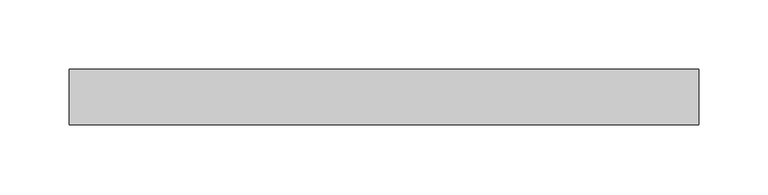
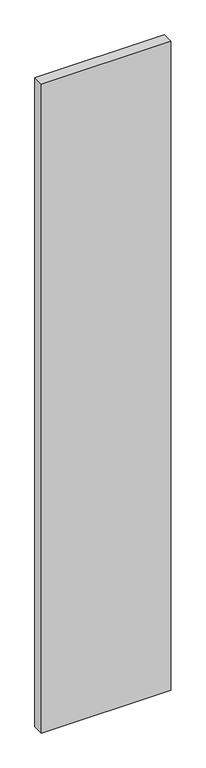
"""IFC4 building model written with IfcOpenShell, lengths in millimetres: plate geometry, Vitré."""

import ifcopenshell
import ifcopenshell.guid

model = None  # the IFC model being written
_history = None  # IfcOwnerHistory: only IFC2X3 demands one
_inside = {}  # id of a spatial element -> (the spatial element, [elements in it])
_under = {}  # id of a project, library or spatial element -> (it, [spatial elements below it])
_declared = {}  # id of a project -> (the project, [libraries it declares])
_typed = {}  # id of a type object -> (the type object, [elements of that type])
_made_of = {}  # id of a material, layer set ... -> (it, [elements and type objects made of it])


def new_model(schema):
    """Start an empty IFC model of exactly this schema.

    Asked for "IFC4X3", IfcOpenShell would pick the latest addendum, in which some entities
    have other attributes; the version numbers below select the first issue.
    IFC2X3 requires an IfcOwnerHistory on every rooted entity: one is made here for all.
    """
    global model, _history
    if schema == "IFC4X3":
        model = ifcopenshell.file(schema_version=(4, 3, 0, 0))
    else:
        model = ifcopenshell.file(schema=schema)
    _inside.clear()
    _under.clear()
    _declared.clear()
    _typed.clear()
    _made_of.clear()
    _history = None
    if model.schema == "IFC2X3":
        org = make("IfcOrganization", Name="unknown")
        user = make(
            "IfcPersonAndOrganization",
            ThePerson=make("IfcPerson", FamilyName="unknown"),
            TheOrganization=org,
        )
        app = make(
            "IfcApplication",
            ApplicationDeveloper=org,
            Version="unknown",
            ApplicationFullName="unknown",
            ApplicationIdentifier="unknown",
        )
        _history = make(
            "IfcOwnerHistory",
            OwningUser=user,
            OwningApplication=app,
            ChangeAction="ADDED",
            CreationDate=0,
        )
    return model


def make(cls, **values):
    """One entity of the class cls with the attributes given. An attribute that is None is left unset."""
    return model.create_entity(
        cls, **{name: value for name, value in values.items() if value is not None}
    )


def rooted(cls, **values):
    """An entity with a GlobalId (a new one), such as an element, a storey or a relation."""
    return make(cls, GlobalId=ifcopenshell.guid.new(), OwnerHistory=_history, **values)


def si_unit(unit_type, name, prefix=None):
    """IfcSIUnit, for example si_unit("LENGTHUNIT", "METRE", prefix="MILLI")."""
    return make("IfcSIUnit", UnitType=unit_type, Prefix=prefix, Name=name)


def assignment(units):
    """IfcUnitAssignment: the units of a project."""
    return None if units is None else make("IfcUnitAssignment", Units=units)


def point(xyz):
    """IfcCartesianPoint."""
    return None if xyz is None else make("IfcCartesianPoint", Coordinates=xyz)


def direction(xyz):
    """IfcDirection."""
    return None if xyz is None else make("IfcDirection", DirectionRatios=xyz)


def frame(location, z_axis=None, x_axis=None):
    """IfcAxis2Placement3D, a coordinate frame: its origin and axes. An axis left out is left unset."""
    return make(
        "IfcAxis2Placement3D",
        Location=point(location),
        Axis=direction(z_axis),
        RefDirection=direction(x_axis),
    )


def origin():
    """The frame at (0, 0, 0) with its axes left unset."""
    return frame((0.0, 0.0, 0.0))


def origin_with_axes():
    """The frame at (0, 0, 0) with the z axis (0, 0, 1) and the x axis (1, 0, 0) written out."""
    return frame((0.0, 0.0, 0.0), z_axis=(0.0, 0.0, 1.0), x_axis=(1.0, 0.0, 0.0))


def place(relative_to, where):
    """IfcLocalPlacement: puts the frame where relative to a parent placement (None: the world)."""
    return make(
        "IfcLocalPlacement", PlacementRelTo=relative_to, RelativePlacement=where
    )


def context(
    kind, dimensions, precision=None, world=None, true_north=None, identifier=None
):
    """IfcGeometricRepresentationContext, for example the 3D "Model" context."""
    return make(
        "IfcGeometricRepresentationContext",
        ContextIdentifier=identifier,
        ContextType=kind,
        CoordinateSpaceDimension=dimensions,
        Precision=precision,
        WorldCoordinateSystem=world,
        TrueNorth=true_north,
    )


def project(units=None, contexts=None):
    """IfcProject with its units and contexts."""
    return rooted(
        "IfcProject",
        Name="project",
        RepresentationContexts=contexts,
        UnitsInContext=assignment(units),
    )


def spatial(cls, under=None, at=None, **own):
    """A site, building, storey or space (cls), placed at a placement, below another one or the project."""
    s = rooted(cls, ObjectPlacement=at, **own)
    if under is not None:
        _under.setdefault(under.id(), (under, []))[1].append(s)
    return s


def polyline(points):
    """IfcPolyline through the points."""
    return make("IfcPolyline", Points=[point(p) for p in points])


def outline(outer, holes=None, kind="AREA"):
    """IfcArbitraryClosedProfileDef: a profile drawn as a closed curve; with holes, ...WithVoids."""
    if holes is None:
        return make("IfcArbitraryClosedProfileDef", ProfileType=kind, OuterCurve=outer)
    return make(
        "IfcArbitraryProfileDefWithVoids",
        ProfileType=kind,
        OuterCurve=outer,
        InnerCurves=holes,
    )


def extrude(swept, where, along, depth):
    """IfcExtrudedAreaSolid: the profile swept, set in the frame where, extruded along a direction by depth."""
    return make(
        "IfcExtrudedAreaSolid",
        SweptArea=swept,
        Position=where,
        ExtrudedDirection=direction(along),
        Depth=depth,
    )


def shape(context_of_items, identifier, shape_type, items):
    """IfcShapeRepresentation: the items that make up one representation, for example the "Body"."""
    return make(
        "IfcShapeRepresentation",
        ContextOfItems=context_of_items,
        RepresentationIdentifier=identifier,
        RepresentationType=shape_type,
        Items=items,
    )


def source(mapping_origin, context_of_items, identifier, shape_type, items):
    """IfcRepresentationMap: a shape defined once, which mapped items show again and again."""
    return make(
        "IfcRepresentationMap",
        MappingOrigin=mapping_origin,
        MappedRepresentation=shape(context_of_items, identifier, shape_type, items),
    )


def transform(
    local_origin,
    x_axis=None,
    y_axis=None,
    z_axis=None,
    scale=None,
    scale2=None,
    scale3=None,
    uniform=True,
):
    """IfcCartesianTransformationOperator3D, or its non-uniform kind. x_axis, y_axis, z_axis: its Axis1, 2, 3."""
    if uniform:
        return make(
            "IfcCartesianTransformationOperator3D",
            Axis1=direction(x_axis),
            Axis2=direction(y_axis),
            LocalOrigin=point(local_origin),
            Scale=scale,
            Axis3=direction(z_axis),
        )
    return make(
        "IfcCartesianTransformationOperator3DnonUniform",
        Axis1=direction(x_axis),
        Axis2=direction(y_axis),
        LocalOrigin=point(local_origin),
        Scale=scale,
        Axis3=direction(z_axis),
        Scale2=scale2,
        Scale3=scale3,
    )


def mapped(mapping_source, mapping_target):
    """IfcMappedItem: shows the shape of a source again, moved by a transform."""
    return make(
        "IfcMappedItem", MappingSource=mapping_source, MappingTarget=mapping_target
    )


def made_of(thing, what):
    """Note that an element or type object is made of a material, layer set ...; save() writes the relation."""
    if what is not None:
        _made_of.setdefault(what.id(), (what, []))[1].append(thing)
    return thing


def element(
    cls,
    number,
    at=None,
    inside=None,
    cuts=None,
    type_object=None,
    material=None,
    context=None,
    identifier="Body",
    shape_type=None,
    held_by="IfcProductDefinitionShape",
    body=None,
    shapes=None,
    **own,
):
    """One element of the class cls, such as IfcWall. Its Tag is "e" and its number.

    at: its placement. inside: the storey or other place that contains it. cuts: it is an
    opening in that element (IfcRelVoidsElement). A single representation is given by context,
    identifier, shape_type and body (its items); several are given by shapes. held_by: the class
    of the entity that holds the representations. save() writes the other relations.
    """
    e = rooted(cls, Tag="e%d" % number, ObjectPlacement=at, **own)
    if body is not None:
        shapes = [shape(context, identifier, shape_type, body)]
    if shapes is not None:
        e.Representation = make(held_by, Representations=shapes)
    if inside is not None:
        _inside.setdefault(inside.id(), (inside, []))[1].append(e)
    if cuts is not None:
        rooted(
            "IfcRelVoidsElement", RelatingBuildingElement=cuts, RelatedOpeningElement=e
        )
    if type_object is not None:
        _typed.setdefault(type_object.id(), (type_object, []))[1].append(e)
    return made_of(e, material)


def aggregate(whole, parts):
    """IfcRelAggregates: a whole, such as a stair, and the parts it consists of."""
    return rooted("IfcRelAggregates", RelatingObject=whole, RelatedObjects=parts)


def save(model, path):
    """Write the relations noted so far, then the file.

    IfcRelAggregates (storeys below a building ...), IfcRelContainedInSpatialStructure (elements
    in a storey), IfcRelDefinesByType, IfcRelAssociatesMaterial and IfcRelDeclares: one each for
    every whole, place, type object, material and project.
    """
    for whole, parts in _under.values():
        aggregate(whole, parts)
    for where, things in _inside.values():
        rooted(
            "IfcRelContainedInSpatialStructure",
            RelatedElements=things,
            RelatingStructure=where,
        )
    for kind, things in _typed.values():
        rooted("IfcRelDefinesByType", RelatedObjects=things, RelatingType=kind)
    for what, things in _made_of.values():
        rooted("IfcRelAssociatesMaterial", RelatedObjects=things, RelatingMaterial=what)
    for by, libraries in _declared.values():
        rooted("IfcRelDeclares", RelatingContext=by, RelatedDefinitions=libraries)
    model.write(path)


def plate_9e05a089(model_context):
    return source(origin(), model_context, "Body", "SweptSolid", [
        extrude(outline(polyline([(-226.9375, -20.0), (-226.9375, 20.0), (226.9375, 20.0), (226.9375, -20.0), (-226.9375, -20.0)])), origin_with_axes(), (0.0, 0.0, 1.0), 2407.625),
    ])


if __name__ == "__main__":
    model = new_model("IFC4")
    model_context = context("Model", 3, world=origin())
    ifc_project = project(units=[si_unit("LENGTHUNIT", "METRE", prefix="MILLI")], contexts=[model_context])
    site = spatial("IfcSite", under=ifc_project)
    building = spatial("IfcBuilding", under=site)
    placement = place(None, origin())
    plate_shape = plate_9e05a089(model_context)
    element("IfcPlate", 1, ObjectType="Vitré", at=placement, inside=building, context=model_context, shape_type="MappedRepresentation", body=[
        mapped(plate_shape, transform((0.0, 0.0, 0.0), x_axis=(1.0, 0.0, 0.0), y_axis=(0.0, 1.0, 0.0), z_axis=(0.0, 0.0, 1.0))),
    ])
    save(model, "model.ifc")
